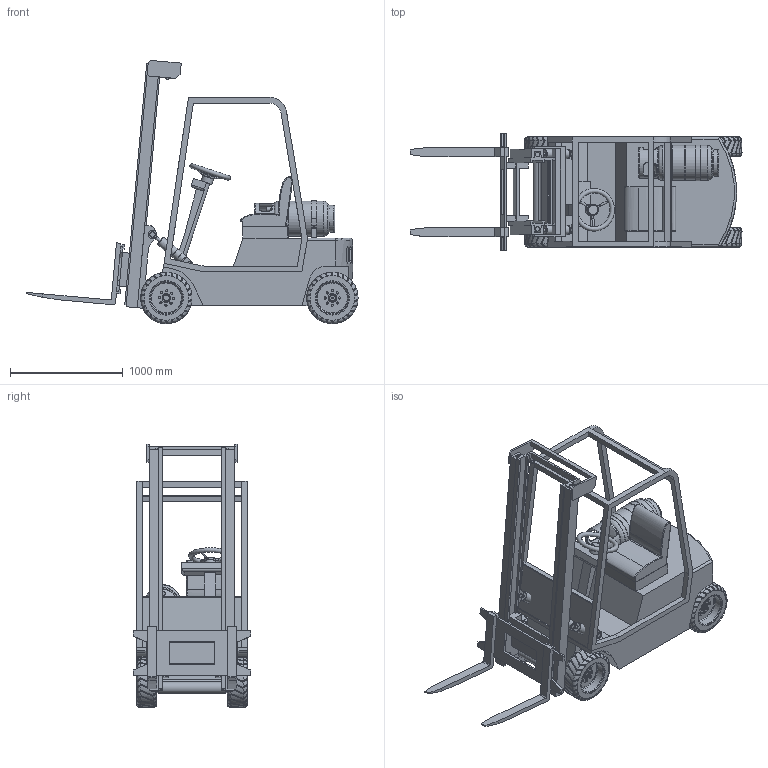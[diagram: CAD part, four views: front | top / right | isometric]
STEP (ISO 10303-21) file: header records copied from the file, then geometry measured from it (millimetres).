
FILE_DESCRIPTION((''),'2;1');
FILE_NAME('C:\Users\Wes\Desktop\4000# Fork Truck R2.stp','2011-11-10T22:35:05',('Wes'),(''),'Autodesk Inventor 2011','Autodesk Inventor 2011','');
FILE_SCHEMA(('AUTOMOTIVE_DESIGN { 1 0 10303 214 1 1 1 1 }'));
Length unit declared in the file: inch
Products named in the file (30): 4000# Fork Truck; Part32; Part34; Part38; Part40; Part42; Part44; Part46; Tire and Wheel; 12in Wheel; 12in Tire; Main Mast Assy; Part10; Part12; Part50; Mast Pivot Plate; Mast Tilt Cyl; Mast Tilt Rod; Inner Mast; Inner Mast Channel; Inner Mast Top; Part2; Steering Spindle; Rear Hub; Pin; 33.5 lb Propane Cyl; Lower Propane Strap; Propane Strap; ANSI_ASME B18.2.1 - 1_2-20 UNF - 1(2); Front Axle
Assembly tree (79 placements, depth 3):
  4000# Fork Truck
    Part32
    Part34
    Part38
    Part40
    Part42
    Part44
    Part46
    Tire and Wheel  x4
      12in Wheel
      12in Tire
    Main Mast Assy
      Part10  x2
      Part12  x2
      Part50
      Mast Pivot Plate  x2
    Mast Tilt Cyl  x2
    Mast Tilt Rod  x2
    Inner Mast
      Inner Mast Channel  x2
      Inner Mast Top
    Part2  x2
    Steering Spindle  x2
    Rear Hub  x4
    Pin  x4
    33.5 lb Propane Cyl
    Lower Propane Strap  x2
    Propane Strap  x2
    ANSI_ASME B18.2.1 - 1_2-20 UNF - 1(2)  x32
    Front Axle
Bounding box: 2949.69 x 1040 x 2338.59 mm (x, y, z)
Volume: 915816686 mm3; surface area: 26701415 mm2
Topology: 79 solids, 80 shells, 3052 faces, 6989 edges, 4184 vertices
Faces by surface type: plane 996, bspline 963, cylinder 537, cone 286, torus 264, sphere 6
Full cylindrical faces by diameter (mm): 12.347 x2, 12.7 x100, 13.081 x32, 19.05 x38, 22.225 x1, 25.4 x15, 31.75 x1, 38.1 x18, 40 x2, 42.222 x2, 50.8 x14, 57.15 x4, 63.5 x7, 76.2 x20, 83.638 x2, 100 x2, 177.8 x4, 203.835 x1, 229.235 x1, 238.76 x1, 267.176 x1, 274.32 x1, 279.4 x8, 292.1 x8, 304.8 x8, 307.658 x2, 312.42 x2
Entity records: 36184 total; most frequent: CARTESIAN_POINT 15056, ORIENTED_EDGE 4292, DIRECTION 3596, EDGE_CURVE 2146, VERTEX_POINT 1400, AXIS2_PLACEMENT_3D 1357, EDGE_LOOP 1188, FACE_OUTER_BOUND 948
